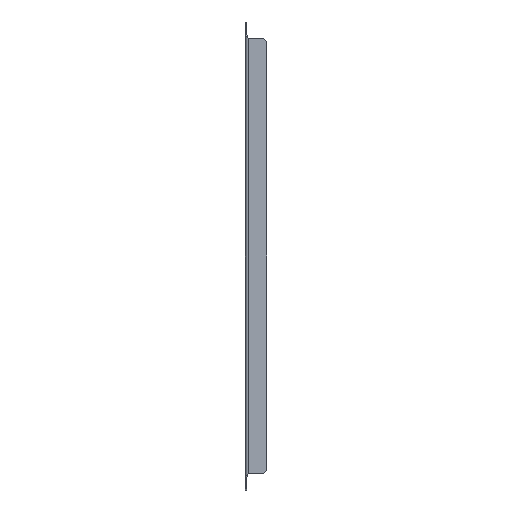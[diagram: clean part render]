
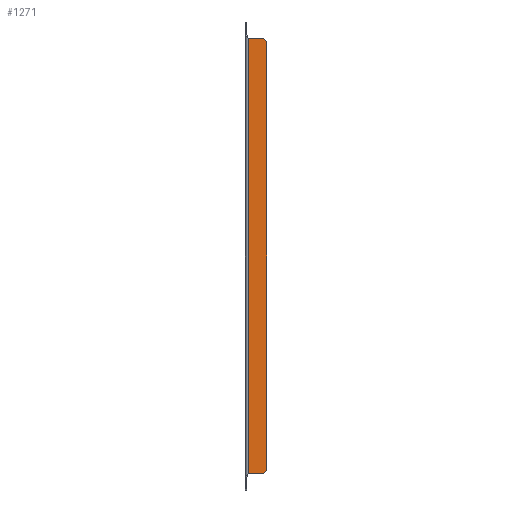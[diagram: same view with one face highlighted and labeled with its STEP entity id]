
A CAD part, left-side view. The second image highlights one B-rep face of the part: STEP entity #1271.
In plain terms, the highlighted planar face has unit normal (-1, 0, 0).
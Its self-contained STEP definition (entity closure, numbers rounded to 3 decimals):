
#20 = LINE ( 'NONE', #520, #300 ) ;
#88 = CARTESIAN_POINT ( 'NONE',  ( -79.5, 0., -195.45 ) ) ;
#92 = CARTESIAN_POINT ( 'NONE',  ( -79.5, -19., -192.45 ) ) ;
#126 = LINE ( 'NONE', #531, #159 ) ;
#159 = VECTOR ( 'NONE', #296, 1000. ) ;
#191 = CARTESIAN_POINT ( 'NONE',  ( -79.5, -19., 0. ) ) ;
#209 = DIRECTION ( 'NONE',  ( 0., -1., 0. ) ) ;
#213 = VECTOR ( 'NONE', #769, 1000. ) ;
#273 = VECTOR ( 'NONE', #843, 1000. ) ;
#296 = DIRECTION ( 'NONE',  ( 0., 0., -1. ) ) ;
#300 = VECTOR ( 'NONE', #1009, 1000. ) ;
#311 = DIRECTION ( 'NONE',  ( 0., -1., 0. ) ) ;
#406 = VERTEX_POINT ( 'NONE', #1032 ) ;
#429 = EDGE_LOOP ( 'NONE', ( #608, #1071, #1468, #991, #638, #527 ) ) ;
#520 = CARTESIAN_POINT ( 'NONE',  ( -79.5, -105.725, -105.725 ) ) ;
#527 = ORIENTED_EDGE ( 'NONE', *, *, #1304, .T. ) ;
#531 = CARTESIAN_POINT ( 'NONE',  ( -79.5, -2.4, 0. ) ) ;
#561 = VERTEX_POINT ( 'NONE', #1549 ) ;
#608 = ORIENTED_EDGE ( 'NONE', *, *, #1463, .T. ) ;
#614 = CARTESIAN_POINT ( 'NONE',  ( -79.5, -105.725, 105.725 ) ) ;
#632 = LINE ( 'NONE', #88, #1323 ) ;
#638 = ORIENTED_EDGE ( 'NONE', *, *, #670, .T. ) ;
#670 = EDGE_CURVE ( 'NONE', #1249, #406, #1510, .T. ) ;
#672 = VERTEX_POINT ( 'NONE', #719 ) ;
#719 = CARTESIAN_POINT ( 'NONE',  ( -79.5, -2.4, -195.45 ) ) ;
#742 = LINE ( 'NONE', #191, #213 ) ;
#752 = DIRECTION ( 'NONE',  ( 0., 0.707, 0.707 ) ) ;
#753 = EDGE_CURVE ( 'NONE', #1433, #906, #742, .T. ) ;
#769 = DIRECTION ( 'NONE',  ( 0., 0., 1. ) ) ;
#843 = DIRECTION ( 'NONE',  ( 0., 1., 0. ) ) ;
#848 = CARTESIAN_POINT ( 'NONE',  ( -79.5, 0., 195.45 ) ) ;
#861 = EDGE_CURVE ( 'NONE', #561, #1433, #20, .T. ) ;
#868 = AXIS2_PLACEMENT_3D ( 'NONE', #1229, #1345, #311 ) ;
#906 = VERTEX_POINT ( 'NONE', #1405 ) ;
#967 = FACE_OUTER_BOUND ( 'NONE', #429, .T. ) ;
#991 = ORIENTED_EDGE ( 'NONE', *, *, #1178, .T. ) ;
#1009 = DIRECTION ( 'NONE',  ( 0., -0.707, 0.707 ) ) ;
#1032 = CARTESIAN_POINT ( 'NONE',  ( -79.5, -2.4, 195.45 ) ) ;
#1071 = ORIENTED_EDGE ( 'NONE', *, *, #861, .T. ) ;
#1113 = PLANE ( 'NONE',  #868 ) ;
#1126 = LINE ( 'NONE', #614, #1472 ) ;
#1178 = EDGE_CURVE ( 'NONE', #906, #1249, #1126, .T. ) ;
#1229 = CARTESIAN_POINT ( 'NONE',  ( -79.5, 0., 0. ) ) ;
#1249 = VERTEX_POINT ( 'NONE', #1360 ) ;
#1271 = ADVANCED_FACE ( 'NONE', ( #967 ), #1113, .T. ) ;
#1304 = EDGE_CURVE ( 'NONE', #406, #672, #126, .T. ) ;
#1323 = VECTOR ( 'NONE', #209, 1000. ) ;
#1345 = DIRECTION ( 'NONE',  ( -1., 0., 0. ) ) ;
#1360 = CARTESIAN_POINT ( 'NONE',  ( -79.5, -16., 195.45 ) ) ;
#1405 = CARTESIAN_POINT ( 'NONE',  ( -79.5, -19., 192.45 ) ) ;
#1433 = VERTEX_POINT ( 'NONE', #92 ) ;
#1463 = EDGE_CURVE ( 'NONE', #672, #561, #632, .T. ) ;
#1468 = ORIENTED_EDGE ( 'NONE', *, *, #753, .T. ) ;
#1472 = VECTOR ( 'NONE', #752, 1000. ) ;
#1510 = LINE ( 'NONE', #848, #273 ) ;
#1549 = CARTESIAN_POINT ( 'NONE',  ( -79.5, -16., -195.45 ) ) ;
